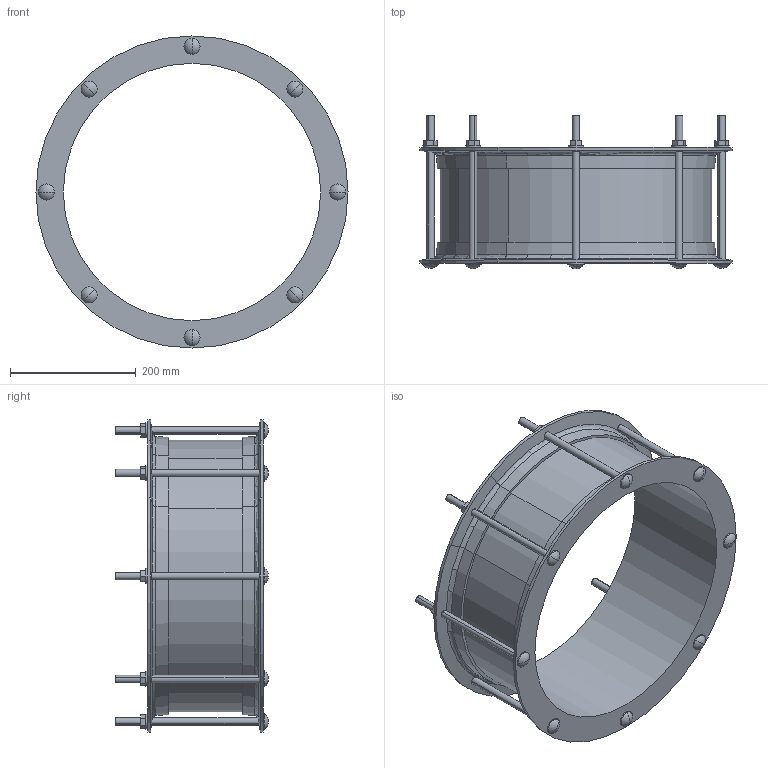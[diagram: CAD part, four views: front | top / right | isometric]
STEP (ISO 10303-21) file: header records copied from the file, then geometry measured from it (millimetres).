
FILE_DESCRIPTION((''),'2;1');
FILE_NAME('LO2_COUP_406','2018-12-06T',('mfairey'),('Glynwed Pipe Systems'),'CREO PARAMETRIC BY PTC INC, 2016130','CREO PARAMETRIC BY PTC INC, 2016130','');
FILE_SCHEMA(('CONFIG_CONTROL_DESIGN'));
Length unit declared in the file: millimetre
Products named in the file (1): LO2_COUP_406
Bounding box: 496.7 x 243.33 x 496.7 mm (x, y, z)
Volume: 3974043.3 mm3; surface area: 761649.2 mm2
Topology: 1 solids, 1 shells, 176 faces, 464 edges, 292 vertices
Faces by surface type: plane 76, cylinder 72, sphere 16, cone 8, torus 4
Entity records: 6046 total; most frequent: CARTESIAN_POINT 1684, DIRECTION 896, ORIENTED_EDGE 896, EDGE_CURVE 448, AXIS2_PLACEMENT_3D 336, VERTEX_POINT 292, VECTOR 224, LINE 224
